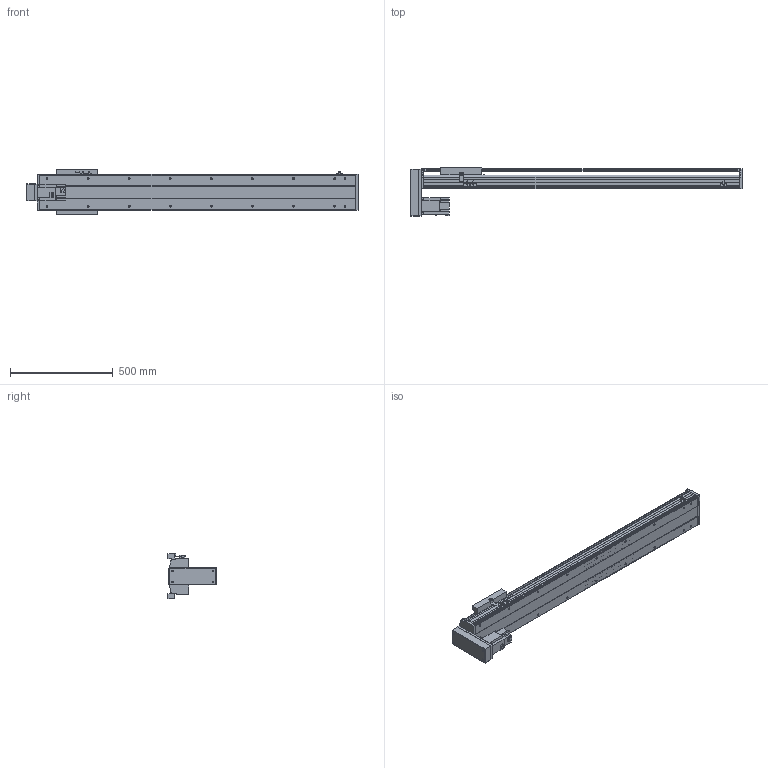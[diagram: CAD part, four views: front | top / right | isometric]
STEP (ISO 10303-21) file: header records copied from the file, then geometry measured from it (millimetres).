
FILE_DESCRIPTION(/* description */ ('STEP AP214'),/* implementation_level */ '2;1');
FILE_NAME(/* name */ 'PSS200-L10-S1200-BM-T75-C1-N(0)',/* time_stamp */ '2022-06-06T04:45:48+02:00',/* author */ ('License CC BY-ND 4.0'),/* organization */ ('CADENAS'),/* preprocessor_version */ 'ST-DEVELOPER v18.102',/* originating_system */ 'PARTsolutions',/* authorisation */ ' ');
FILE_SCHEMA (('AUTOMOTIVE_DESIGN {1 0 10303 214 3 1 1}'));
Length unit declared in the file: millimetre
Products named in the file (8): PSS200-L10-S1200-BM-T75-C1-N(0); PSS200-S1200-BM-N_S; T75-p1; PSS200BM-N_h; PSS200-N_sensor; PSS200-BM-C1-N_sl; PSS200-N_Q; PSS200-S1200-BM-C1-N_body
Assembly tree (9 placements, depth 2):
  PSS200-L10-S1200-BM-T75-C1-N(0)
    PSS200-S1200-BM-N_S
    T75-p1
    PSS200BM-N_h
    PSS200-N_sensor  x3
    PSS200-BM-C1-N_sl
    PSS200-N_Q
    PSS200-S1200-BM-C1-N_body
Bounding box: 1616.85 x 234.45 x 223.86 mm (x, y, z)
Volume: 10143280.1 mm3; surface area: 2496660.3 mm2
Topology: 9 solids, 9 shells, 610 faces, 1637 edges, 1086 vertices
Faces by surface type: plane 452, cylinder 128, cone 26, sphere 4
Full cylindrical faces by diameter (mm): 4 x2, 4.5 x4, 6 x7, 6.647 x22, 7.4 x4, 8 x8, 10 x6, 25 x1, 40 x1, 67 x1
Entity records: 16960 total; most frequent: CARTESIAN_POINT 2933, DIRECTION 2807, ORIENTED_EDGE 2758, EDGE_CURVE 1379, LINE 1071, VECTOR 1071, VERTEX_POINT 962, AXIS2_PLACEMENT_3D 868
